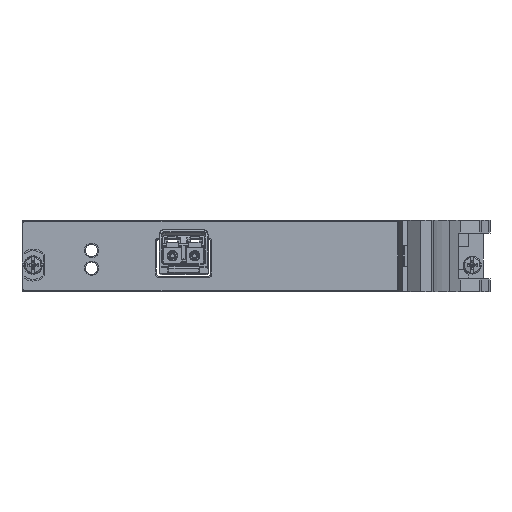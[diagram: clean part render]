
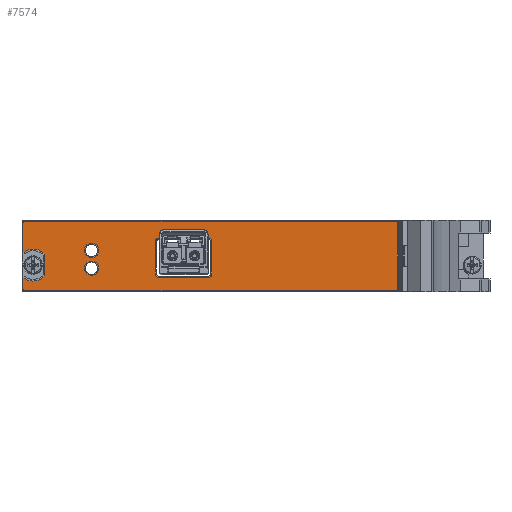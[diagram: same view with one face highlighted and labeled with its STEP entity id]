
A CAD part, left-side view. The second image highlights one B-rep face of the part: STEP entity #7574.
In plain terms, the highlighted planar face has unit normal (-1, 0, 0).
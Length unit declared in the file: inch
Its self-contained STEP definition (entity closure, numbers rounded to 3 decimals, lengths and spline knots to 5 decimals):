
#2430=CARTESIAN_POINT('',(-0.215,0.53465,0.665));
#2431=DIRECTION('',(-1.,0.,0.));
#2432=DIRECTION('',(0.,0.,1.));
#2433=AXIS2_PLACEMENT_3D('',#2430,#2431,#2432);
#2435=DIRECTION('',(0.,1.,0.));
#2436=VECTOR('',#2435,4.07);
#2437=CARTESIAN_POINT('',(-0.215,-3.53535,0.685));
#2438=LINE('',#2437,#2436);
#2439=CARTESIAN_POINT('',(-0.215,-3.53535,0.665));
#2440=DIRECTION('',(-1.,0.,0.));
#2441=DIRECTION('',(0.,-1.,0.));
#2442=AXIS2_PLACEMENT_3D('',#2439,#2440,#2441);
#2444=DIRECTION('',(0.,0.,1.));
#2445=VECTOR('',#2444,0.728);
#2446=CARTESIAN_POINT('',(-0.215,-3.55535,-0.063));
#2447=LINE('',#2446,#2445);
#2448=CARTESIAN_POINT('',(-0.215,-3.53535,-0.063));
#2449=DIRECTION('',(-1.,0.,0.));
#2450=DIRECTION('',(0.,0.,-1.));
#2451=AXIS2_PLACEMENT_3D('',#2448,#2449,#2450);
#2453=DIRECTION('',(0.,-1.,0.));
#2454=VECTOR('',#2453,4.07);
#2455=CARTESIAN_POINT('',(-0.215,0.53465,-0.083));
#2456=LINE('',#2455,#2454);
#2457=CARTESIAN_POINT('',(-0.215,0.53465,-0.063));
#2458=DIRECTION('',(-1.,0.,0.));
#2459=DIRECTION('',(0.,1.,0.));
#2460=AXIS2_PLACEMENT_3D('',#2457,#2458,#2459);
#2462=DIRECTION('',(0.,0.,-1.));
#2463=VECTOR('',#2462,0.12953);
#2464=CARTESIAN_POINT('',(-0.215,0.55465,0.06653));
#2465=LINE('',#2464,#2463);
#2466=CARTESIAN_POINT('',(-0.215,0.44265,0.201));
#2467=DIRECTION('',(1.,0.,0.));
#2468=DIRECTION('',(0.,-0.737,-0.676));
#2469=AXIS2_PLACEMENT_3D('',#2466,#2467,#2468);
#2471=DIRECTION('',(0.,0.,-1.));
#2472=VECTOR('',#2471,0.23651);
#2473=CARTESIAN_POINT('',(-0.215,0.31365,0.31925));
#2474=LINE('',#2473,#2472);
#2475=CARTESIAN_POINT('',(-0.215,0.44265,0.201));
#2476=DIRECTION('',(1.,0.,0.));
#2477=DIRECTION('',(0.,0.64,0.768));
#2478=AXIS2_PLACEMENT_3D('',#2475,#2476,#2477);
#2480=DIRECTION('',(0.,0.,-1.));
#2481=VECTOR('',#2480,0.32953);
#2482=CARTESIAN_POINT('',(-0.215,0.55465,0.665));
#2483=LINE('',#2482,#2481);
#2484=CARTESIAN_POINT('',(-0.215,-0.19935,0.362));
#2485=DIRECTION('',(-1.,0.,0.));
#2486=DIRECTION('',(0.,0.,1.));
#2487=AXIS2_PLACEMENT_3D('',#2484,#2485,#2486);
#2489=CARTESIAN_POINT('',(-0.215,-0.19935,0.362));
#2490=DIRECTION('',(-1.,0.,0.));
#2491=DIRECTION('',(0.,0.,-1.));
#2492=AXIS2_PLACEMENT_3D('',#2489,#2490,#2491);
#2494=CARTESIAN_POINT('',(-0.215,-0.19935,0.167));
#2495=DIRECTION('',(-1.,0.,0.));
#2496=DIRECTION('',(0.,0.,1.));
#2497=AXIS2_PLACEMENT_3D('',#2494,#2495,#2496);
#2499=CARTESIAN_POINT('',(-0.215,-0.19935,0.167));
#2500=DIRECTION('',(-1.,0.,0.));
#2501=DIRECTION('',(0.,0.,-1.));
#2502=AXIS2_PLACEMENT_3D('',#2499,#2500,#2501);
#2504=DIRECTION('',(0.,1.,0.));
#2505=VECTOR('',#2504,0.55);
#2506=CARTESIAN_POINT('',(-0.215,-1.48455,0.497));
#2507=LINE('',#2506,#2505);
#2508=DIRECTION('',(0.,0.,-1.));
#2509=VECTOR('',#2508,0.359);
#2510=CARTESIAN_POINT('',(-0.215,-0.89955,0.462));
#2511=LINE('',#2510,#2509);
#2512=DIRECTION('',(0.,-1.,0.));
#2513=VECTOR('',#2512,0.55);
#2514=CARTESIAN_POINT('',(-0.215,-0.93455,0.068));
#2515=LINE('',#2514,#2513);
#2516=DIRECTION('',(0.,0.,1.));
#2517=VECTOR('',#2516,0.359);
#2518=CARTESIAN_POINT('',(-0.215,-1.51955,0.103));
#2519=LINE('',#2518,#2517);
#2672=CARTESIAN_POINT('',(-0.215,-1.48455,0.103));
#2673=DIRECTION('',(1.,0.,0.));
#2674=DIRECTION('',(0.,-1.,0.));
#2675=AXIS2_PLACEMENT_3D('',#2672,#2673,#2674);
#2685=CARTESIAN_POINT('',(-0.215,-1.48455,0.462));
#2686=DIRECTION('',(1.,0.,0.));
#2687=DIRECTION('',(0.,0.,1.));
#2688=AXIS2_PLACEMENT_3D('',#2685,#2686,#2687);
#2690=CARTESIAN_POINT('',(-0.215,-0.93455,0.103));
#2691=DIRECTION('',(1.,0.,0.));
#2692=DIRECTION('',(0.,0.,-1.));
#2693=AXIS2_PLACEMENT_3D('',#2690,#2691,#2692);
#2703=CARTESIAN_POINT('',(-0.215,-0.93455,0.462));
#2704=DIRECTION('',(1.,0.,0.));
#2705=DIRECTION('',(0.,1.,0.));
#2706=AXIS2_PLACEMENT_3D('',#2703,#2704,#2705);
#4076=CARTESIAN_POINT('',(-0.215,0.53465,0.685));
#4077=CARTESIAN_POINT('',(-0.215,0.55465,0.665));
#4078=VERTEX_POINT('',#4076);
#4079=VERTEX_POINT('',#4077);
#4080=CARTESIAN_POINT('',(-0.215,0.55465,0.33547));
#4081=VERTEX_POINT('',#4080);
#4082=CARTESIAN_POINT('',(-0.215,0.31365,0.31925));
#4083=VERTEX_POINT('',#4082);
#4084=CARTESIAN_POINT('',(-0.215,0.31365,0.08275));
#4085=VERTEX_POINT('',#4084);
#4086=CARTESIAN_POINT('',(-0.215,0.55465,0.06653));
#4087=VERTEX_POINT('',#4086);
#4088=CARTESIAN_POINT('',(-0.215,0.55465,-0.063));
#4089=VERTEX_POINT('',#4088);
#4090=CARTESIAN_POINT('',(-0.215,0.53465,-0.083));
#4091=VERTEX_POINT('',#4090);
#4092=CARTESIAN_POINT('',(-0.215,-3.53535,-0.083));
#4093=VERTEX_POINT('',#4092);
#4094=CARTESIAN_POINT('',(-0.215,-3.55535,-0.063));
#4095=VERTEX_POINT('',#4094);
#4096=CARTESIAN_POINT('',(-0.215,-3.55535,0.665));
#4097=VERTEX_POINT('',#4096);
#4098=CARTESIAN_POINT('',(-0.215,-3.53535,0.685));
#4099=VERTEX_POINT('',#4098);
#4100=CARTESIAN_POINT('',(-0.215,-0.19935,0.4405));
#4101=CARTESIAN_POINT('',(-0.215,-0.19935,0.2835));
#4102=VERTEX_POINT('',#4100);
#4103=VERTEX_POINT('',#4101);
#4104=CARTESIAN_POINT('',(-0.215,-0.19935,0.2455));
#4105=CARTESIAN_POINT('',(-0.215,-0.19935,0.0885));
#4106=VERTEX_POINT('',#4104);
#4107=VERTEX_POINT('',#4105);
#4108=CARTESIAN_POINT('',(-0.215,-0.93455,0.068));
#4109=CARTESIAN_POINT('',(-0.215,-1.48455,0.068));
#4110=VERTEX_POINT('',#4108);
#4111=VERTEX_POINT('',#4109);
#4112=CARTESIAN_POINT('',(-0.215,-1.51955,0.103));
#4113=CARTESIAN_POINT('',(-0.215,-1.51955,0.462));
#4114=VERTEX_POINT('',#4112);
#4115=VERTEX_POINT('',#4113);
#4116=CARTESIAN_POINT('',(-0.215,-1.48455,0.497));
#4117=CARTESIAN_POINT('',(-0.215,-0.93455,0.497));
#4118=VERTEX_POINT('',#4116);
#4119=VERTEX_POINT('',#4117);
#4120=CARTESIAN_POINT('',(-0.215,-0.89955,0.462));
#4121=CARTESIAN_POINT('',(-0.215,-0.89955,0.103));
#4122=VERTEX_POINT('',#4120);
#4123=VERTEX_POINT('',#4121);
#7515=CARTESIAN_POINT('',(-0.215,0.44265,0.201));
#7516=DIRECTION('',(-1.,0.,0.));
#7517=DIRECTION('',(0.,0.,1.));
#7518=AXIS2_PLACEMENT_3D('',#7515,#7516,#7517);
#7519=PLANE('',#7518);
#7521=ORIENTED_EDGE('',*,*,#7520,.F.);
#7523=ORIENTED_EDGE('',*,*,#7522,.F.);
#7525=ORIENTED_EDGE('',*,*,#7524,.F.);
#7527=ORIENTED_EDGE('',*,*,#7526,.F.);
#7529=ORIENTED_EDGE('',*,*,#7528,.F.);
#7531=ORIENTED_EDGE('',*,*,#7530,.F.);
#7533=ORIENTED_EDGE('',*,*,#7532,.F.);
#7535=ORIENTED_EDGE('',*,*,#7534,.F.);
#7537=ORIENTED_EDGE('',*,*,#7536,.F.);
#7539=ORIENTED_EDGE('',*,*,#7538,.F.);
#7541=ORIENTED_EDGE('',*,*,#7540,.F.);
#7543=ORIENTED_EDGE('',*,*,#7542,.F.);
#7544=EDGE_LOOP('',(#7521,#7523,#7525,#7527,#7529,#7531,#7533,#7535,#7537,#7539,
#7541,#7543));
#7545=FACE_OUTER_BOUND('',#7544,.F.);
#7546=ORIENTED_EDGE('',*,*,#7495,.T.);
#7547=ORIENTED_EDGE('',*,*,#7509,.T.);
#7548=EDGE_LOOP('',(#7546,#7547));
#7549=FACE_BOUND('',#7548,.F.);
#7551=ORIENTED_EDGE('',*,*,#7550,.T.);
#7553=ORIENTED_EDGE('',*,*,#7552,.T.);
#7554=EDGE_LOOP('',(#7551,#7553));
#7555=FACE_BOUND('',#7554,.F.);
#7557=ORIENTED_EDGE('',*,*,#7556,.T.);
#7559=ORIENTED_EDGE('',*,*,#7558,.F.);
#7561=ORIENTED_EDGE('',*,*,#7560,.T.);
#7563=ORIENTED_EDGE('',*,*,#7562,.F.);
#7565=ORIENTED_EDGE('',*,*,#7564,.T.);
#7567=ORIENTED_EDGE('',*,*,#7566,.F.);
#7569=ORIENTED_EDGE('',*,*,#7568,.T.);
#7571=ORIENTED_EDGE('',*,*,#7570,.F.);
#7572=EDGE_LOOP('',(#7557,#7559,#7561,#7563,#7565,#7567,#7569,#7571));
#7573=FACE_BOUND('',#7572,.F.);
#7574=ADVANCED_FACE('',(#7545,#7549,#7555,#7573),#7519,.T.);
#2434=CIRCLE('',#2433,0.02);
#2443=CIRCLE('',#2442,0.02);
#2452=CIRCLE('',#2451,0.02);
#2461=CIRCLE('',#2460,0.02);
#2470=CIRCLE('',#2469,0.175);
#2479=CIRCLE('',#2478,0.175);
#2488=CIRCLE('',#2487,0.0785);
#2493=CIRCLE('',#2492,0.0785);
#2498=CIRCLE('',#2497,0.0785);
#2503=CIRCLE('',#2502,0.0785);
#2676=CIRCLE('',#2675,0.035);
#2689=CIRCLE('',#2688,0.035);
#2694=CIRCLE('',#2693,0.035);
#2707=CIRCLE('',#2706,0.035);
#7495=EDGE_CURVE('',#4102,#4103,#2488,.T.);
#7509=EDGE_CURVE('',#4103,#4102,#2493,.T.);
#7520=EDGE_CURVE('',#4078,#4079,#2434,.T.);
#7522=EDGE_CURVE('',#4099,#4078,#2438,.T.);
#7524=EDGE_CURVE('',#4097,#4099,#2443,.T.);
#7526=EDGE_CURVE('',#4095,#4097,#2447,.T.);
#7528=EDGE_CURVE('',#4093,#4095,#2452,.T.);
#7530=EDGE_CURVE('',#4091,#4093,#2456,.T.);
#7532=EDGE_CURVE('',#4089,#4091,#2461,.T.);
#7534=EDGE_CURVE('',#4087,#4089,#2465,.T.);
#7536=EDGE_CURVE('',#4085,#4087,#2470,.T.);
#7538=EDGE_CURVE('',#4083,#4085,#2474,.T.);
#7540=EDGE_CURVE('',#4081,#4083,#2479,.T.);
#7542=EDGE_CURVE('',#4079,#4081,#2483,.T.);
#7550=EDGE_CURVE('',#4106,#4107,#2498,.T.);
#7552=EDGE_CURVE('',#4107,#4106,#2503,.T.);
#7556=EDGE_CURVE('',#4118,#4119,#2507,.T.);
#7558=EDGE_CURVE('',#4122,#4119,#2707,.T.);
#7560=EDGE_CURVE('',#4122,#4123,#2511,.T.);
#7562=EDGE_CURVE('',#4110,#4123,#2694,.T.);
#7564=EDGE_CURVE('',#4110,#4111,#2515,.T.);
#7566=EDGE_CURVE('',#4114,#4111,#2676,.T.);
#7568=EDGE_CURVE('',#4114,#4115,#2519,.T.);
#7570=EDGE_CURVE('',#4118,#4115,#2689,.T.);
